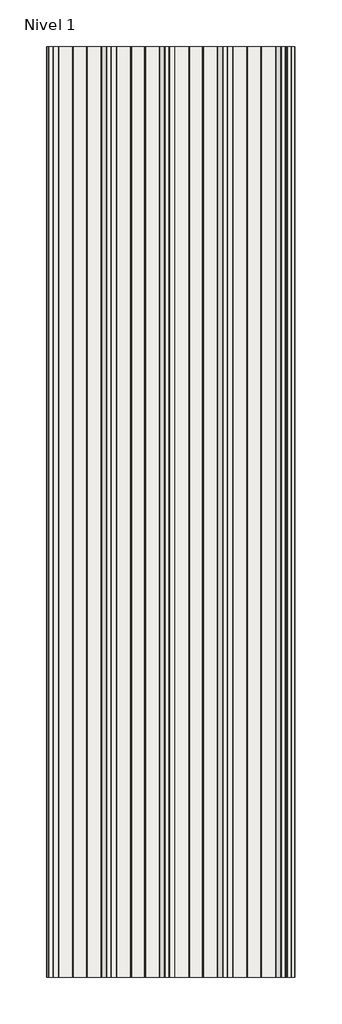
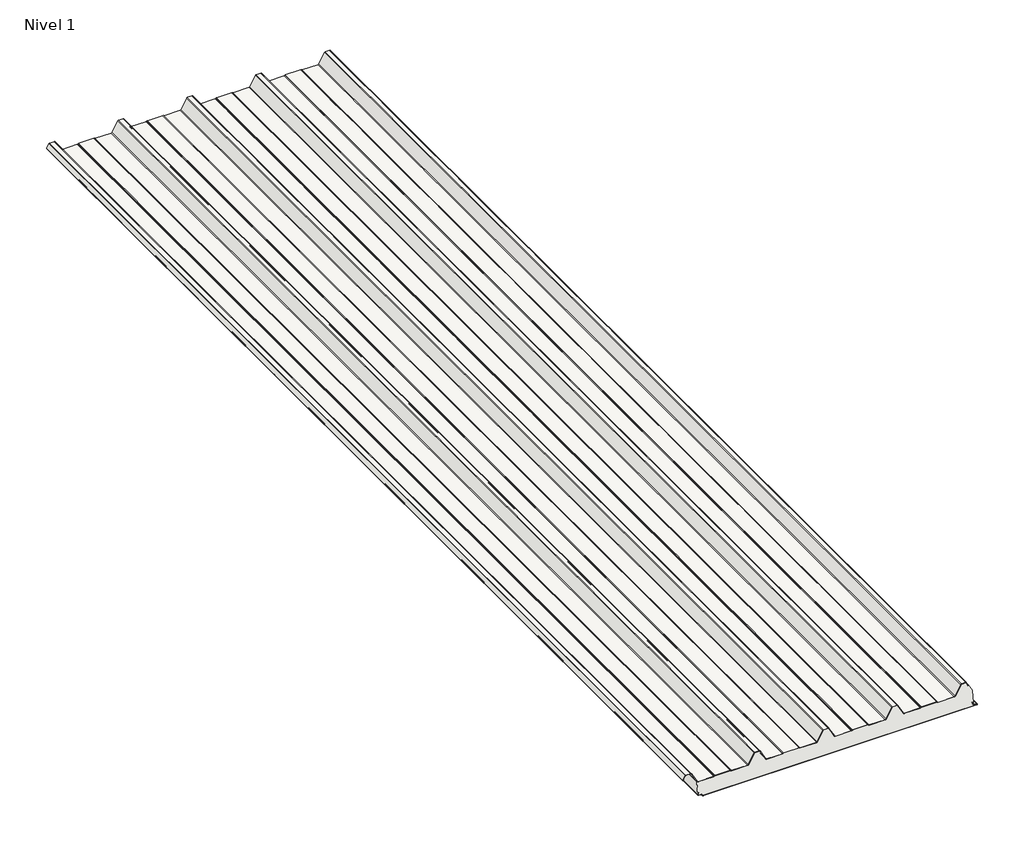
# One storey: 1 slab.
"""IFC4 building model written with IfcOpenShell, lengths in millimetres."""

from ifc_helpers import new_model, si_unit, origin, place, context, project, spatial, transform, mapped, element, save
from components import hi_quadcore_2_0_xt_60_liso_grecada_b670beb6

model = new_model("IFC4")

# Units and contexts
model_context = context("Model", 3, world=origin())
ifc_project = project(units=[si_unit("LENGTHUNIT", "METRE", prefix="MILLI")], contexts=[model_context])

# Site, building, storey
site = spatial("IfcSite", under=ifc_project)
building = spatial("IfcBuilding", under=site)
storey = spatial("IfcBuildingStorey", under=building, Name="Nivel 1", Elevation=0.0)

# Slab
placement = place(None, origin())
hi_quadcore_2_0_xt_60_liso_grecada_shape = hi_quadcore_2_0_xt_60_liso_grecada_b670beb6(model_context)
element("IfcSlab", 1, ObjectType="Panel_HI_QuadCore 2.0 XT-XT DUAL_liso-grecada : HI-Quadcore 2.0 XT 60 liso-grecada", at=placement, inside=storey, context=model_context, shape_type="MappedRepresentation", body=[
    mapped(hi_quadcore_2_0_xt_60_liso_grecada_shape, transform((179.0307103, 435.507424, 0.0), x_axis=(1.0, 0.0, 0.0), y_axis=(0.0, 1.0, 0.0), z_axis=(0.0, 0.0, 1.0))),
])

save(model, "model.ifc")
